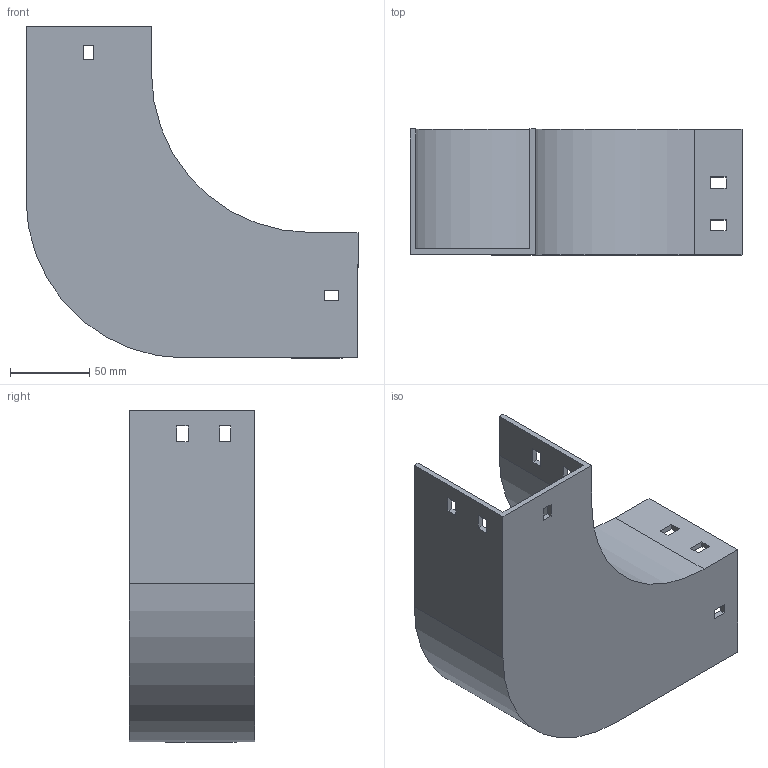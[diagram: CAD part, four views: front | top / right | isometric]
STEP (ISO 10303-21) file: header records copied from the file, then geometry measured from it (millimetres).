
FILE_DESCRIPTION (( 'STEP AP214' ), '1' );
FILE_NAME ('10F1C075.step', '2025-02-21T12:57:21', ( '' ), ( '' ), 'SwSTEP 2.0', 'SolidWorks 2023', '' );
FILE_SCHEMA (( 'AUTOMOTIVE_DESIGN' ));
Length unit declared in the file: millimetre
Products named in the file (1): 10F1C075
Bounding box: 209 x 79 x 209 mm (x, y, z)
Volume: 247842.1 mm3; surface area: 146475.6 mm2
Topology: 1 solids, 1 shells, 58 faces, 168 edges, 112 vertices
Faces by surface type: plane 54, cylinder 4
Entity records: 1943 total; most frequent: CARTESIAN_POINT 339, ORIENTED_EDGE 336, DIRECTION 294, EDGE_CURVE 168, LINE 160, VECTOR 160, VERTEX_POINT 112, EDGE_LOOP 78
